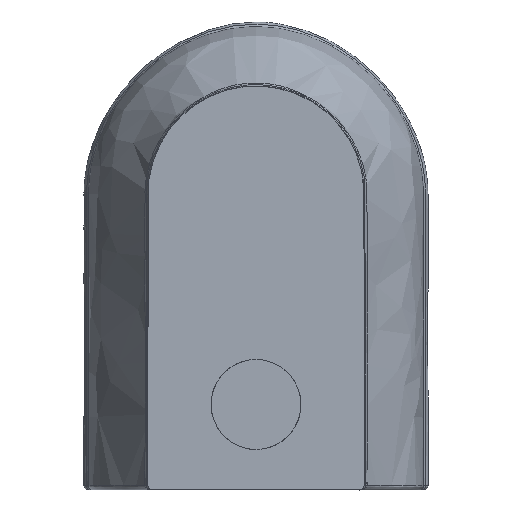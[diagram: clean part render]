
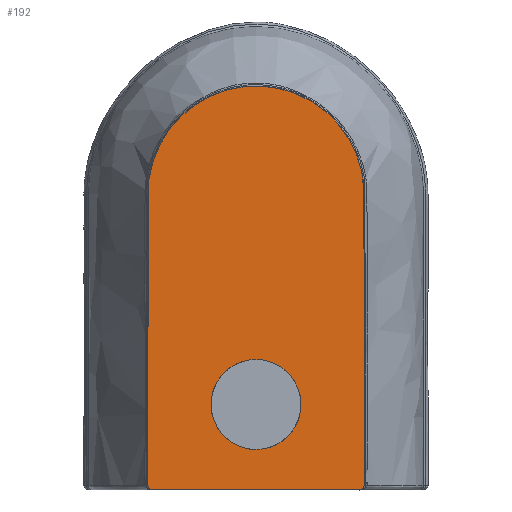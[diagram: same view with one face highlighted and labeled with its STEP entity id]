
A CAD part, front view. The second image highlights one B-rep face of the part: STEP entity #192.
In plain terms, the highlighted planar face has unit normal (0, -1, 0).
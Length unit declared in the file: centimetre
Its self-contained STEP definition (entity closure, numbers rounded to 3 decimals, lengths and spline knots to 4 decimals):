
#33=FACE_BOUND('',#705,.T.);
#192=ADVANCED_FACE('',(#443,#33),#3478,.T.);
#443=FACE_OUTER_BOUND('',#704,.T.);
#704=EDGE_LOOP('',(#1482,#1483,#1484,#1485));
#705=EDGE_LOOP('',(#1486,#1487));
#1482=ORIENTED_EDGE('',*,*,#2302,.T.);
#1483=ORIENTED_EDGE('',*,*,#2436,.T.);
#1484=ORIENTED_EDGE('',*,*,#2297,.T.);
#1485=ORIENTED_EDGE('',*,*,#2523,.T.);
#1486=ORIENTED_EDGE('',*,*,#2413,.T.);
#1487=ORIENTED_EDGE('',*,*,#2414,.T.);
#2297=EDGE_CURVE('',#3315,#3316,#2714,.T.);
#2302=EDGE_CURVE('',#3313,#3314,#2719,.T.);
#2413=EDGE_CURVE('',#3318,#3317,#3036,.T.);
#2414=EDGE_CURVE('',#3317,#3318,#3037,.T.);
#2436=EDGE_CURVE('',#3314,#3315,#3058,.T.);
#2523=EDGE_CURVE('',#3316,#3313,#3117,.T.);
#2714=B_SPLINE_CURVE_WITH_KNOTS('',1,(#28823,#28824),.UNSPECIFIED.,.F.,
 .F.,(2,2),(-1.,0.),.UNSPECIFIED.);
#2719=B_SPLINE_CURVE_WITH_KNOTS('',3,(#28833,#28834,#28835,#28836,#28837,
#28838,#28839,#28840,#28841,#28842,#28843,#28844,#28845,#28846,#28847,#28848,
#28849,#28850,#28851,#28852,#28853,#28854,#28855,#28856,#28857,#28858,#28859,
#28860,#28861,#28862,#28863,#28864,#28865,#28866,#28867,#28868,#28869,#28870,
#28871,#28872,#28873,#28874,#28875,#28876),.UNSPECIFIED.,.F.,.F.,(4,1,1,
2,1,1,1,1,1,1,1,1,1,1,1,1,1,1,1,2,1,1,1,1,1,1,1,1,1,1,1,1,1,1,1,2,1,1,4),
(-243.465,-225.7426,-199.0016,-172.2607,
-169.1027,-165.9446,-159.6286,-153.3126,
-150.1546,-146.9966,-143.8386,-140.6806,
-137.5226,-135.9435,-134.3645,-131.2065,-128.0485,
-126.4695,-124.8905,-121.7325,-118.5745,
-116.9955,-115.4165,-112.2585,-109.1005,
-107.5215,-105.9424,-102.7844,-99.6264,
-96.4684,-93.3104,-90.1524,-83.8364,
-77.5204,-74.3623,-71.2043,-44.4634,
-17.7224,0.),.UNSPECIFIED.);
#3036=(
BOUNDED_CURVE()
B_SPLINE_CURVE(2,(#32711,#32712,#32713,#32714,#32715),.UNSPECIFIED.,.F.,
 .F.)
B_SPLINE_CURVE_WITH_KNOTS((3,2,3),(-0.1571,-0.0785,
0.),.UNSPECIFIED.)
CURVE()
GEOMETRIC_REPRESENTATION_ITEM()
RATIONAL_B_SPLINE_CURVE((1.,0.707,1.,0.707,1.))
REPRESENTATION_ITEM('')
);
#3037=(
BOUNDED_CURVE()
B_SPLINE_CURVE(2,(#32716,#32717,#32718,#32719,#32720),.UNSPECIFIED.,.F.,
 .F.)
B_SPLINE_CURVE_WITH_KNOTS((3,2,3),(-0.3142,-0.2356,
-0.1571),.UNSPECIFIED.)
CURVE()
GEOMETRIC_REPRESENTATION_ITEM()
RATIONAL_B_SPLINE_CURVE((1.,0.707,1.,0.707,1.))
REPRESENTATION_ITEM('')
);
#3058=(
BOUNDED_CURVE()
B_SPLINE_CURVE(2,(#33207,#33208,#33209),.UNSPECIFIED.,.F.,.F.)
B_SPLINE_CURVE_WITH_KNOTS((3,3),(-0.0079,0.),.UNSPECIFIED.)
CURVE()
GEOMETRIC_REPRESENTATION_ITEM()
RATIONAL_B_SPLINE_CURVE((1.,0.707,1.))
REPRESENTATION_ITEM('')
);
#3117=(
BOUNDED_CURVE()
B_SPLINE_CURVE(2,(#34489,#34490,#34491),.UNSPECIFIED.,.F.,.F.)
B_SPLINE_CURVE_WITH_KNOTS((3,3),(-0.0079,0.),.UNSPECIFIED.)
CURVE()
GEOMETRIC_REPRESENTATION_ITEM()
RATIONAL_B_SPLINE_CURVE((1.,0.707,1.))
REPRESENTATION_ITEM('')
);
#3313=VERTEX_POINT('',#28635);
#3314=VERTEX_POINT('',#28636);
#3315=VERTEX_POINT('',#28637);
#3316=VERTEX_POINT('',#28638);
#3317=VERTEX_POINT('',#28639);
#3318=VERTEX_POINT('',#28640);
#3478=PLANE('',#3749);
#3749=AXIS2_PLACEMENT_3D('',#17072,#3793,$);
#3793=DIRECTION('',(0.,-1.,0.));
#17072=CARTESIAN_POINT('',(-0.1301,-0.42,0.6209));
#28635=CARTESIAN_POINT('',(0.12,-0.42,0.1662));
#28636=CARTESIAN_POINT('',(-0.12,-0.42,0.1662));
#28637=CARTESIAN_POINT('',(-0.115,-0.42,0.1612));
#28638=CARTESIAN_POINT('',(0.115,-0.42,0.1612));
#28639=CARTESIAN_POINT('',(0.,-0.42,0.2062));
#28640=CARTESIAN_POINT('',(0.,-0.42,0.3062));
#28823=CARTESIAN_POINT('',(-0.115,-0.42,0.1612));
#28824=CARTESIAN_POINT('',(0.115,-0.42,0.1612));
#28833=CARTESIAN_POINT('',(0.12,-0.42,0.1662));
#28834=CARTESIAN_POINT('',(0.12,-0.42,0.1938));
#28835=CARTESIAN_POINT('',(0.12,-0.42,0.2632));
#28836=CARTESIAN_POINT('',(0.12,-0.42,0.3726));
#28837=CARTESIAN_POINT('',(0.12,-0.42,0.4516));
#28838=CARTESIAN_POINT('',(0.12,-0.42,0.4945));
#28839=CARTESIAN_POINT('',(0.1195,-0.42,0.5034));
#28840=CARTESIAN_POINT('',(0.1167,-0.42,0.5203));
#28841=CARTESIAN_POINT('',(0.1101,-0.42,0.5397));
#28842=CARTESIAN_POINT('',(0.1002,-0.42,0.5568));
#28843=CARTESIAN_POINT('',(0.0907,-0.42,0.5689));
#28844=CARTESIAN_POINT('',(0.0828,-0.42,0.5771));
#28845=CARTESIAN_POINT('',(0.0742,-0.42,0.5845));
#28846=CARTESIAN_POINT('',(0.065,-0.42,0.5911));
#28847=CARTESIAN_POINT('',(0.0568,-0.42,0.5958));
#28848=CARTESIAN_POINT('',(0.0501,-0.42,0.5991));
#28849=CARTESIAN_POINT('',(0.0432,-0.42,0.6021));
#28850=CARTESIAN_POINT('',(0.0342,-0.42,0.6052));
#28851=CARTESIAN_POINT('',(0.025,-0.42,0.6075));
#28852=CARTESIAN_POINT('',(0.0174,-0.42,0.6088));
#28853=CARTESIAN_POINT('',(0.0098,-0.42,0.6097));
#28854=CARTESIAN_POINT('',(0.0039,-0.42,0.61));
#28855=CARTESIAN_POINT('',(-0.0039,-0.42,0.61));
#28856=CARTESIAN_POINT('',(-0.0098,-0.42,0.6097));
#28857=CARTESIAN_POINT('',(-0.0174,-0.42,0.6088));
#28858=CARTESIAN_POINT('',(-0.025,-0.42,0.6075));
#28859=CARTESIAN_POINT('',(-0.0342,-0.42,0.6052));
#28860=CARTESIAN_POINT('',(-0.0432,-0.42,0.6021));
#28861=CARTESIAN_POINT('',(-0.0501,-0.42,0.5991));
#28862=CARTESIAN_POINT('',(-0.0568,-0.42,0.5958));
#28863=CARTESIAN_POINT('',(-0.065,-0.42,0.5911));
#28864=CARTESIAN_POINT('',(-0.0742,-0.42,0.5845));
#28865=CARTESIAN_POINT('',(-0.0828,-0.42,0.5771));
#28866=CARTESIAN_POINT('',(-0.0907,-0.42,0.5689));
#28867=CARTESIAN_POINT('',(-0.1002,-0.42,0.5568));
#28868=CARTESIAN_POINT('',(-0.1101,-0.42,0.5397));
#28869=CARTESIAN_POINT('',(-0.1167,-0.42,0.5203));
#28870=CARTESIAN_POINT('',(-0.1195,-0.42,0.5034));
#28871=CARTESIAN_POINT('',(-0.12,-0.42,0.4945));
#28872=CARTESIAN_POINT('',(-0.12,-0.42,0.4516));
#28873=CARTESIAN_POINT('',(-0.12,-0.42,0.3726));
#28874=CARTESIAN_POINT('',(-0.12,-0.42,0.2632));
#28875=CARTESIAN_POINT('',(-0.12,-0.42,0.1938));
#28876=CARTESIAN_POINT('',(-0.12,-0.42,0.1662));
#32711=CARTESIAN_POINT('',(0.,-0.42,0.3062));
#32712=CARTESIAN_POINT('',(0.05,-0.42,0.3062));
#32713=CARTESIAN_POINT('',(0.05,-0.42,0.2562));
#32714=CARTESIAN_POINT('',(0.05,-0.42,0.2062));
#32715=CARTESIAN_POINT('',(0.,-0.42,0.2062));
#32716=CARTESIAN_POINT('',(0.,-0.42,0.2062));
#32717=CARTESIAN_POINT('',(-0.05,-0.42,0.2062));
#32718=CARTESIAN_POINT('',(-0.05,-0.42,0.2562));
#32719=CARTESIAN_POINT('',(-0.05,-0.42,0.3062));
#32720=CARTESIAN_POINT('',(0.,-0.42,0.3062));
#33207=CARTESIAN_POINT('',(-0.12,-0.42,0.1662));
#33208=CARTESIAN_POINT('',(-0.12,-0.42,0.1612));
#33209=CARTESIAN_POINT('',(-0.115,-0.42,0.1612));
#34489=CARTESIAN_POINT('',(0.115,-0.42,0.1612));
#34490=CARTESIAN_POINT('',(0.12,-0.42,0.1612));
#34491=CARTESIAN_POINT('',(0.12,-0.42,0.1662));
